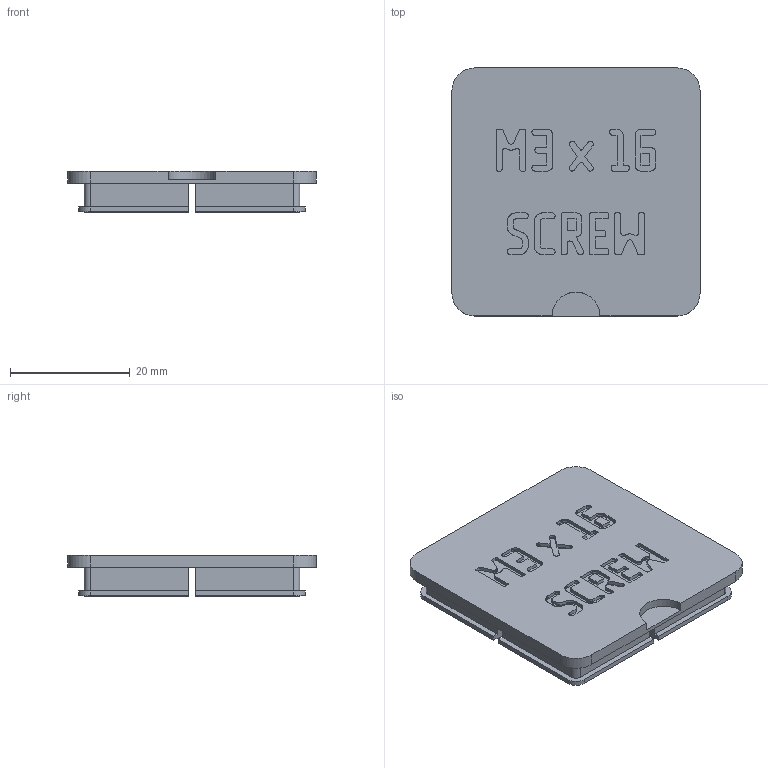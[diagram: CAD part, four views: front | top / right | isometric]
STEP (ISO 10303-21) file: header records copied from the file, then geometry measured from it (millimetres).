
FILE_DESCRIPTION(('Open CASCADE Model'),'2;1');
FILE_NAME('Open CASCADE Shape Model','2026-11-03T17:09:44',('Author'),( 'Open CASCADE'),'Open CASCADE STEP processor 8.0','build123d', 'Unknown');
FILE_SCHEMA(('AUTOMOTIVE_DESIGN { 1 0 10303 214 1 1 1 1 }'));
Products named in the file (1): COMPOUND
Bounding box: 41.5 x 41.5 x 6.9 mm (x, y, z)
Volume: 4183.4 mm3; surface area: 5545.1 mm2
Topology: 1 solids, 1 shells, 1206 faces, 3573 edges, 2382 vertices
Faces by surface type: plane 1185, cylinder 21
Entity records: 85890 total; most frequent: CARTESIAN_POINT 14664, DIRECTION 12979, LINE 10471, VECTOR 10471, ORIENTED_EDGE 7146, PCURVE 7146, DEFINITIONAL_REPRESENTATION 7146, EDGE_CURVE 3573
